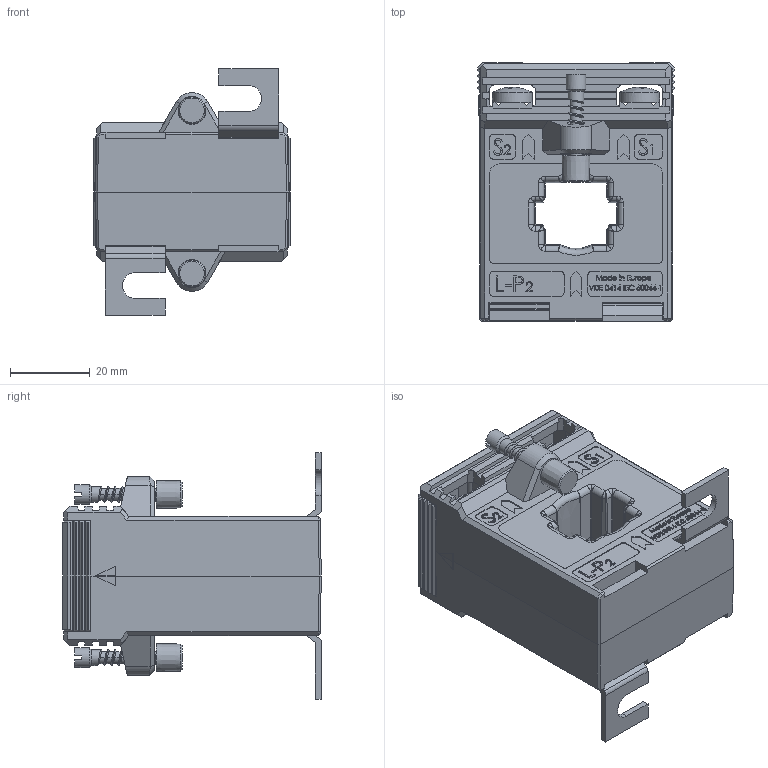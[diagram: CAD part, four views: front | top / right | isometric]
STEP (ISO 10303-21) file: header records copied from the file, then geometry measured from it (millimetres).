
FILE_DESCRIPTION(/* description */ (''),/* implementation_level */ '2;1');
FILE_NAME(/* name */ 'ASK205.3.stp',/* time_stamp */ '2024-03-04T15:15:31+01:00',/* author */ ('JDI'),/* organization */ (''),/* preprocessor_version */ 'ST-DEVELOPER v19.2',/* originating_system */ 'Autodesk Inventor 2023',/* authorisation */ '');
FILE_SCHEMA (('AUTOMOTIVE_DESIGN { 1 0 10303 214 3 1 1 }'));
Products named in the file (1): ASK205.3
Bounding box: 49.5 x 65 x 62 mm (x, y, z)
Volume: 81766.9 mm3; surface area: 25993 mm2
Topology: 1 solids, 1 shells, 1842 faces, 4860 edges, 3088 vertices
Faces by surface type: plane 1206, bspline 398, cylinder 166, cone 48, torus 16, sphere 8
Full cylindrical faces by diameter (mm): 2.95 x2, 3 x20, 3.8 x4, 4 x10, 4.1 x2, 5 x2, 10 x4
Entity records: 82085 total; most frequent: CARTESIAN_POINT 37494, ORIENTED_EDGE 9672, DIRECTION 7410, EDGE_CURVE 4836, LINE 3434, VECTOR 3434, VERTEX_POINT 3088, EDGE_LOOP 1996
